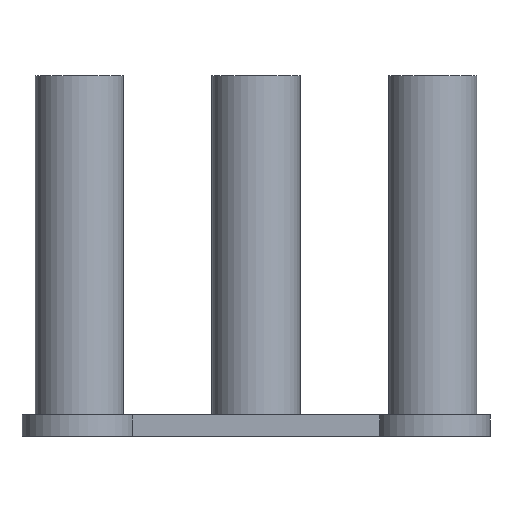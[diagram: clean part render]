
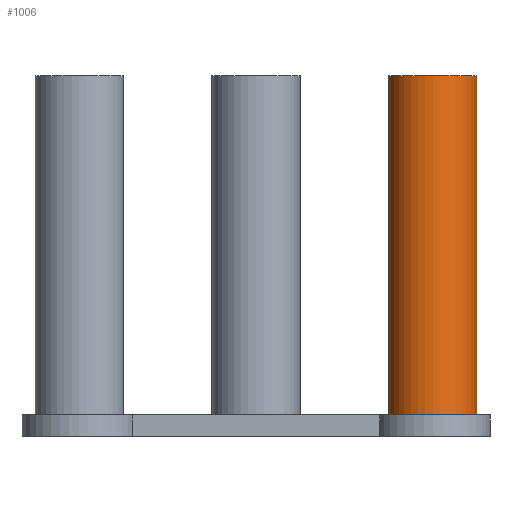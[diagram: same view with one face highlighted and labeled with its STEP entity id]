
A CAD part, left-side view. The second image highlights one B-rep face of the part: STEP entity #1006.
In plain terms, the highlighted cylindrical face has radius 2.5 mm (diameter 5 mm), a full revolution.
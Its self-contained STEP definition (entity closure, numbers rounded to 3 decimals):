
#388 = PLANE('',#389);
#389 = AXIS2_PLACEMENT_3D('',#390,#391,#392);
#390 = CARTESIAN_POINT('',(3.25,23.25,1.2));
#391 = DIRECTION('',(0.,0.,1.));
#392 = DIRECTION('',(1.,0.,-0.));
#909 = EDGE_CURVE('',#910,#910,#912,.T.);
#910 = VERTEX_POINT('',#911);
#911 = CARTESIAN_POINT('',(5.75,3.25,1.2));
#912 = SURFACE_CURVE('',#913,(#918,#925),.PCURVE_S1.);
#913 = CIRCLE('',#914,2.5);
#914 = AXIS2_PLACEMENT_3D('',#915,#916,#917);
#915 = CARTESIAN_POINT('',(3.25,3.25,1.2));
#916 = DIRECTION('',(0.,0.,1.));
#917 = DIRECTION('',(1.,0.,0.));
#918 = PCURVE('',#388,#919);
#919 = DEFINITIONAL_REPRESENTATION('',(#920),#924);
#920 = CIRCLE('',#921,2.5);
#921 = AXIS2_PLACEMENT_2D('',#922,#923);
#922 = CARTESIAN_POINT('',(0.,-20.));
#923 = DIRECTION('',(1.,0.));
#924 = ( GEOMETRIC_REPRESENTATION_CONTEXT(2) 
PARAMETRIC_REPRESENTATION_CONTEXT() REPRESENTATION_CONTEXT('2D SPACE',''
  ) );
#925 = PCURVE('',#926,#931);
#926 = CYLINDRICAL_SURFACE('',#927,2.5);
#927 = AXIS2_PLACEMENT_3D('',#928,#929,#930);
#928 = CARTESIAN_POINT('',(3.25,3.25,1.2));
#929 = DIRECTION('',(-0.,-0.,-1.));
#930 = DIRECTION('',(1.,0.,0.));
#931 = DEFINITIONAL_REPRESENTATION('',(#932),#936);
#932 = LINE('',#933,#934);
#933 = CARTESIAN_POINT('',(-0.,0.));
#934 = VECTOR('',#935,1.);
#935 = DIRECTION('',(-1.,0.));
#936 = ( GEOMETRIC_REPRESENTATION_CONTEXT(2) 
PARAMETRIC_REPRESENTATION_CONTEXT() REPRESENTATION_CONTEXT('2D SPACE',''
  ) );
#1006 = ADVANCED_FACE('',(#1007),#926,.T.);
#1007 = FACE_BOUND('',#1008,.F.);
#1008 = EDGE_LOOP('',(#1009,#1032,#1059,#1060));
#1009 = ORIENTED_EDGE('',*,*,#1010,.T.);
#1010 = EDGE_CURVE('',#910,#1011,#1013,.T.);
#1011 = VERTEX_POINT('',#1012);
#1012 = CARTESIAN_POINT('',(5.75,3.25,20.4));
#1013 = SEAM_CURVE('',#1014,(#1018,#1025),.PCURVE_S1.);
#1014 = LINE('',#1015,#1016);
#1015 = CARTESIAN_POINT('',(5.75,3.25,1.2));
#1016 = VECTOR('',#1017,1.);
#1017 = DIRECTION('',(0.,0.,1.));
#1018 = PCURVE('',#926,#1019);
#1019 = DEFINITIONAL_REPRESENTATION('',(#1020),#1024);
#1020 = LINE('',#1021,#1022);
#1021 = CARTESIAN_POINT('',(-0.,0.));
#1022 = VECTOR('',#1023,1.);
#1023 = DIRECTION('',(-0.,-1.));
#1024 = ( GEOMETRIC_REPRESENTATION_CONTEXT(2) 
PARAMETRIC_REPRESENTATION_CONTEXT() REPRESENTATION_CONTEXT('2D SPACE',''
  ) );
#1025 = PCURVE('',#926,#1026);
#1026 = DEFINITIONAL_REPRESENTATION('',(#1027),#1031);
#1027 = LINE('',#1028,#1029);
#1028 = CARTESIAN_POINT('',(-6.283,0.));
#1029 = VECTOR('',#1030,1.);
#1030 = DIRECTION('',(-0.,-1.));
#1031 = ( GEOMETRIC_REPRESENTATION_CONTEXT(2) 
PARAMETRIC_REPRESENTATION_CONTEXT() REPRESENTATION_CONTEXT('2D SPACE',''
  ) );
#1032 = ORIENTED_EDGE('',*,*,#1033,.T.);
#1033 = EDGE_CURVE('',#1011,#1011,#1034,.T.);
#1034 = SURFACE_CURVE('',#1035,(#1040,#1047),.PCURVE_S1.);
#1035 = CIRCLE('',#1036,2.5);
#1036 = AXIS2_PLACEMENT_3D('',#1037,#1038,#1039);
#1037 = CARTESIAN_POINT('',(3.25,3.25,20.4));
#1038 = DIRECTION('',(0.,0.,1.));
#1039 = DIRECTION('',(1.,0.,0.));
#1040 = PCURVE('',#926,#1041);
#1041 = DEFINITIONAL_REPRESENTATION('',(#1042),#1046);
#1042 = LINE('',#1043,#1044);
#1043 = CARTESIAN_POINT('',(-0.,-19.2));
#1044 = VECTOR('',#1045,1.);
#1045 = DIRECTION('',(-1.,0.));
#1046 = ( GEOMETRIC_REPRESENTATION_CONTEXT(2) 
PARAMETRIC_REPRESENTATION_CONTEXT() REPRESENTATION_CONTEXT('2D SPACE',''
  ) );
#1047 = PCURVE('',#1048,#1053);
#1048 = PLANE('',#1049);
#1049 = AXIS2_PLACEMENT_3D('',#1050,#1051,#1052);
#1050 = CARTESIAN_POINT('',(3.25,3.25,20.4));
#1051 = DIRECTION('',(0.,0.,1.));
#1052 = DIRECTION('',(1.,0.,-0.));
#1053 = DEFINITIONAL_REPRESENTATION('',(#1054),#1058);
#1054 = CIRCLE('',#1055,2.5);
#1055 = AXIS2_PLACEMENT_2D('',#1056,#1057);
#1056 = CARTESIAN_POINT('',(0.,0.));
#1057 = DIRECTION('',(1.,0.));
#1058 = ( GEOMETRIC_REPRESENTATION_CONTEXT(2) 
PARAMETRIC_REPRESENTATION_CONTEXT() REPRESENTATION_CONTEXT('2D SPACE',''
  ) );
#1059 = ORIENTED_EDGE('',*,*,#1010,.F.);
#1060 = ORIENTED_EDGE('',*,*,#909,.F.);
